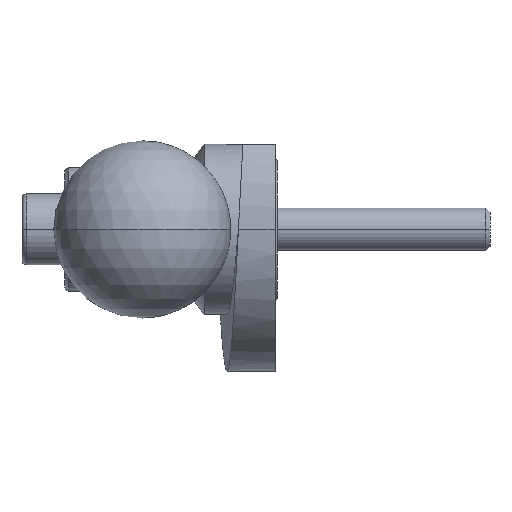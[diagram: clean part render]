
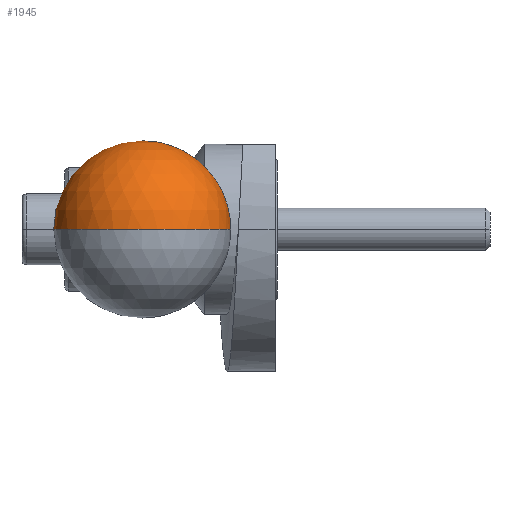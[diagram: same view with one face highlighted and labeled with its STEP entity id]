
A CAD part, left-side view. The second image highlights one B-rep face of the part: STEP entity #1945.
In plain terms, the highlighted spherical face has radius 12.5 mm.
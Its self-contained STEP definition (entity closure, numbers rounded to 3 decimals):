
#11 = CARTESIAN_POINT ( 'NONE',  ( -100., 8.75, 0. ) ) ;
#60 = CIRCLE ( 'NONE', #996, 7.5 ) ;
#83 = VERTEX_POINT ( 'NONE', #11 ) ;
#86 = ORIENTED_EDGE ( 'NONE', *, *, #1389, .F. ) ;
#194 = CARTESIAN_POINT ( 'NONE',  ( -77.5, 1.25, 0. ) ) ;
#295 = CARTESIAN_POINT ( 'NONE',  ( -77.5, 8.75, 0. ) ) ;
#589 = DIRECTION ( 'NONE',  ( 0., -1., 0. ) ) ;
#680 = DIRECTION ( 'NONE',  ( 0., 0., 1. ) ) ;
#736 = VERTEX_POINT ( 'NONE', #1140 ) ;
#758 = DIRECTION ( 'NONE',  ( 1., 0., 0. ) ) ;
#931 = CIRCLE ( 'NONE', #1359, 12.5 ) ;
#996 = AXIS2_PLACEMENT_3D ( 'NONE', #295, #758, #1248 ) ;
#1102 = AXIS2_PLACEMENT_3D ( 'NONE', #1670, #2019, #1988 ) ;
#1140 = CARTESIAN_POINT ( 'NONE',  ( -77.5, 16.25, 0. ) ) ;
#1191 = FACE_OUTER_BOUND ( 'NONE', #1338, .T. ) ;
#1213 = SPHERICAL_SURFACE ( 'NONE', #1874, 12.5 ) ;
#1248 = DIRECTION ( 'NONE',  ( 0., 1., 0. ) ) ;
#1338 = EDGE_LOOP ( 'NONE', ( #1906, #1679, #86 ) ) ;
#1347 = CARTESIAN_POINT ( 'NONE',  ( -87.5, 8.75, 0. ) ) ;
#1359 = AXIS2_PLACEMENT_3D ( 'NONE', #1471, #680, #1629 ) ;
#1389 = EDGE_CURVE ( 'NONE', #736, #1519, #60, .T. ) ;
#1439 = EDGE_CURVE ( 'NONE', #83, #736, #1993, .T. ) ;
#1471 = CARTESIAN_POINT ( 'NONE',  ( -87.5, 8.75, 0. ) ) ;
#1514 = DIRECTION ( 'NONE',  ( 0., 0., -1. ) ) ;
#1519 = VERTEX_POINT ( 'NONE', #194 ) ;
#1629 = DIRECTION ( 'NONE',  ( 1., 0., 0. ) ) ;
#1670 = CARTESIAN_POINT ( 'NONE',  ( -87.5, 8.75, 0. ) ) ;
#1679 = ORIENTED_EDGE ( 'NONE', *, *, #1864, .T. ) ;
#1864 = EDGE_CURVE ( 'NONE', #83, #1519, #931, .T. ) ;
#1874 = AXIS2_PLACEMENT_3D ( 'NONE', #1347, #1514, #589 ) ;
#1906 = ORIENTED_EDGE ( 'NONE', *, *, #1439, .F. ) ;
#1945 = ADVANCED_FACE ( 'NONE', ( #1191 ), #1213, .T. ) ;
#1988 = DIRECTION ( 'NONE',  ( 0., 1., 0. ) ) ;
#1993 = CIRCLE ( 'NONE', #1102, 12.5 ) ;
#2019 = DIRECTION ( 'NONE',  ( 0., 0., -1. ) ) ;
